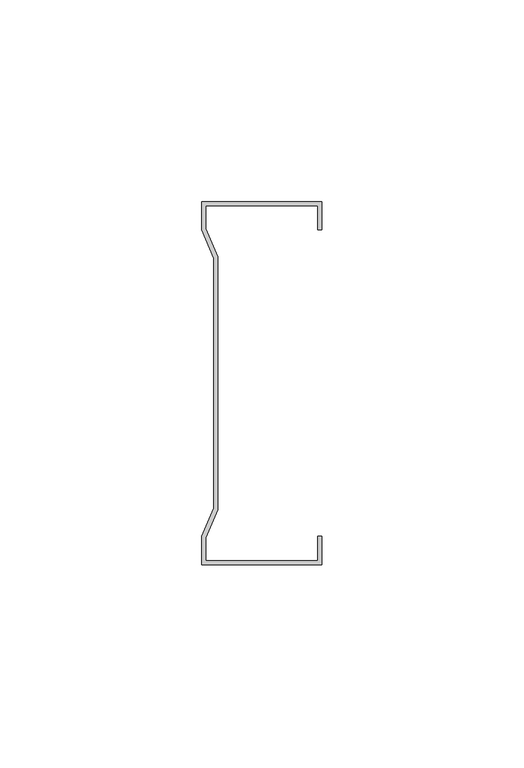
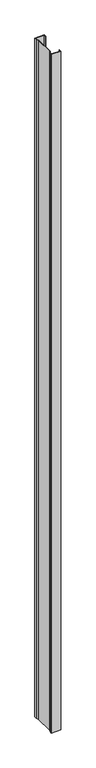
"""IFC4 building model written with IfcOpenShell, lengths in millimetres: proxy geometry, SICON Stud 3 5-8 : SICON Stud 3 5/8."""

from ifc_helpers import new_model, si_unit, frame, origin, place, context, project, spatial, polyline, outline, extrude, source, transform, mapped, element, save


def generic_models_e4a0fb4d(model_context):
    return source(origin(), model_context, "Body", "SweptSolid", [
        extrude(outline(polyline([(17.8255771, 45.0), (17.8255771, 38.0), (16.8255771, 38.0), (16.8255771, 44.0), (-10.984671, 44.0), (-10.984671, 38.3333333), (-7.984671, 31.3333333), (-7.984671, -31.3333333), (-10.984671, -38.3333333), (-10.984671, -44.0), (16.8255771, -44.0), (16.8255771, -38.0), (17.8255771, -38.0), (17.8255771, -45.0), (-11.984671, -45.0), (-11.984671, -38.0), (-8.984671, -31.0), (-8.984671, 31.0), (-11.984671, 38.0), (-11.984671, 45.0), (17.8255771, 45.0)])), frame((0.0, 0.0, 3.0), z_axis=(0.0, 0.0, 1.0), x_axis=(1.0, 0.0, 0.0)), (0.0, 0.0, 1.0), 2278.2693648),
    ])


if __name__ == "__main__":
    model = new_model("IFC4")
    model_context = context("Model", 3, world=origin())
    ifc_project = project(units=[si_unit("LENGTHUNIT", "METRE", prefix="MILLI")], contexts=[model_context])
    site = spatial("IfcSite", under=ifc_project)
    building = spatial("IfcBuilding", under=site)
    placement = place(None, origin())
    generic_models_shape = generic_models_e4a0fb4d(model_context)
    element("IfcBuildingElementProxy", 1, Name="SICON Stud 3 5-8 : SICON Stud 3 5/8", ObjectType="SICON Stud 3 5-8 : SICON Stud 3 5/8", at=placement, inside=building, context=model_context, shape_type="MappedRepresentation", body=[
        mapped(generic_models_shape, transform((0.0, 0.0, 0.0), x_axis=(1.0, 0.0, 0.0), y_axis=(0.0, 1.0, 0.0), z_axis=(0.0, 0.0, 1.0))),
    ])
    save(model, "model.ifc")
